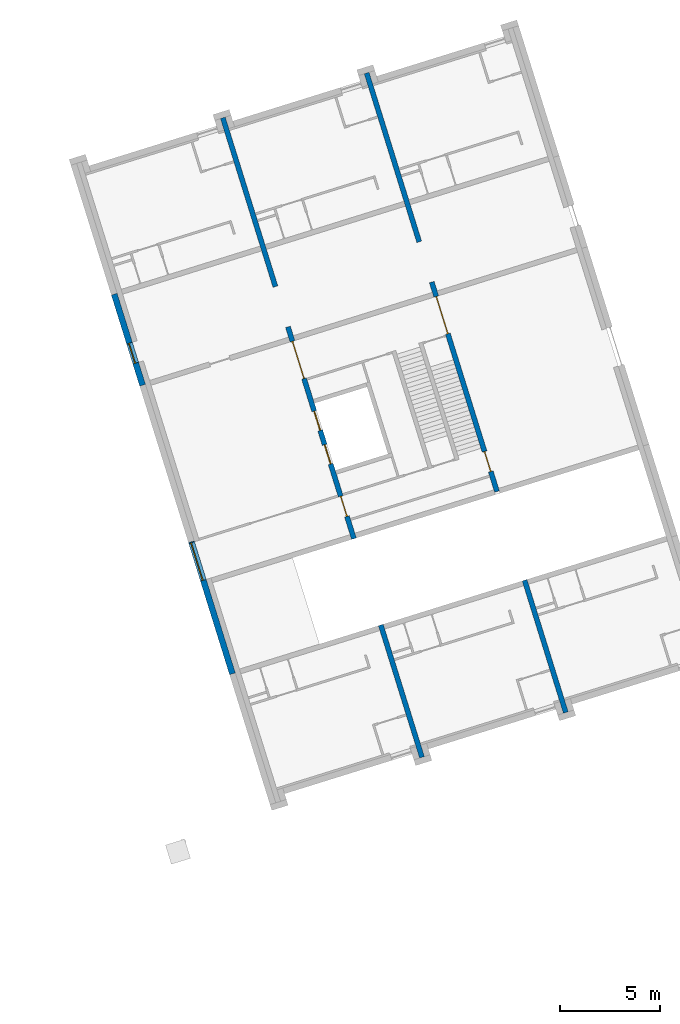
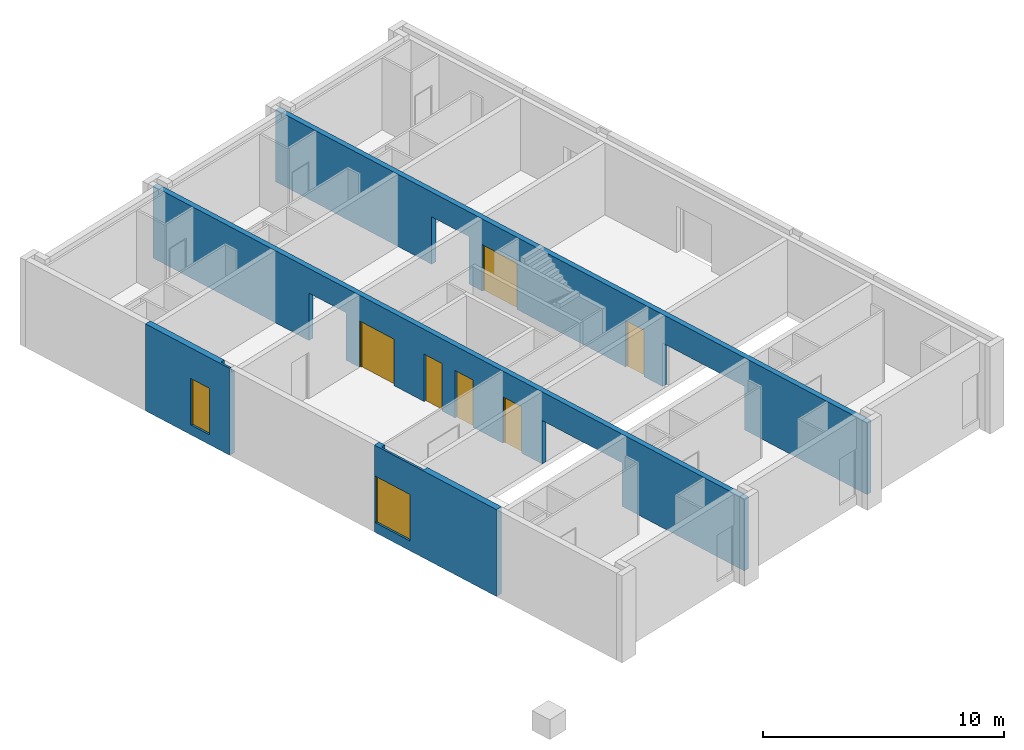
# One storey, part 7 of 10: 8 doors, 4 walls, 12 openings.
"""IFC4 building model written with IfcOpenShell, lengths in metres."""

from ifc_helpers import new_model, entity, si_unit, converted_unit, direction, frame, origin, place, context, subcontext, project, spatial, indexed_curve, outline, extrude, polygons, source, transform, mapped, material, constituent, constituent_set, type_object, type_shapes, element, fill, save


model = new_model("IFC4")

# Units and contexts
model_context = context("Model", 3, precision=1e-05, world=origin(), true_north=direction((6.12323399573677e-17, 1.0)))
body_context = subcontext(model_context, "Body", "Model", "MODEL_VIEW")
ifc_project = project(units=[si_unit("LENGTHUNIT", "METRE"), si_unit("AREAUNIT", "SQUARE_METRE"), si_unit("VOLUMEUNIT", "CUBIC_METRE"), converted_unit("PLANEANGLEUNIT", "DEGREE", entity("IfcPlaneAngleMeasure", 0.0174532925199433), si_unit("PLANEANGLEUNIT", "RADIAN"), dimensions=[0, 0, 0, 0, 0, 0, 0])], contexts=[model_context])

# Site, building, storey
site_placement = place(None, frame((13.1347999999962, 11.9886000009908, 0.0), z_axis=(0.0, 0.0, 1.0), x_axis=(0.954770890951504, 0.297342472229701, 0.0)))
site = spatial("IfcSite", under=ifc_project, at=site_placement, Name="Schiehaven", CompositionType="ELEMENT")
building_placement = place(site_placement, origin())
building = spatial("IfcBuilding", under=site, at=building_placement, Name="VORM huis", CompositionType="ELEMENT")
storey_placement = place(building_placement, origin())
storey = spatial("IfcBuildingStorey", under=building, at=storey_placement, Name="00 begane grond", CompositionType="ELEMENT", Elevation=0.0)

# Wall, openings, doors
ifc_material_1 = material(Name="beton_gewapend_ihw", Category="Miscellaneous")
wall_type_1 = type_object("IfcWallType", Name="Basic Wall:28_WA_skelet_wand 250mm_gen", PredefinedType="STANDARD")
wall_1_placement = place(storey_placement, frame((20.0, 33.725, 0.0), z_axis=(0.0, 0.0, 1.0), x_axis=(0.0, -1.0, 0.0)))
wall_1 = element("IfcWall", 1, at=wall_1_placement, inside=storey, type_object=wall_type_1, material=ifc_material_1, Name="Constructieve wand", ObjectType="Wand", PredefinedType="NOTDEFINED", context=body_context, shape_type="Tessellation", body=[
    polygons([(33.35, -0.124999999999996, 0.0), (33.35, -0.124999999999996, 3.65), (21.95, -0.124999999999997, 3.65), (21.7, -0.124999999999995, 3.65), (11.65, -0.124999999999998, 3.65), (11.4, -0.124999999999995, 3.65), (-4.33146851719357e-15, -0.124999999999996, 3.65), (-4.33146851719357e-15, -0.124999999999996, 0.0), (8.80000000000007, -0.124999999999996, 0.0), (8.80000000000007, -0.124999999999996, 2.4), (10.9000000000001, -0.124999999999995, 2.4), (10.9000000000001, -0.124999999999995, 0.0), (11.4, -0.124999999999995, 0.0), (11.65, -0.124999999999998, 0.0), (11.65, -0.124999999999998, 2.34999999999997), (13.6, -0.124999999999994, 2.34999999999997), (13.6, -0.124999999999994, 0.0), (19.735, -0.124999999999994, 0.0), (19.735, -0.124999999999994, 2.34999999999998), (20.785, -0.124999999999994, 2.34999999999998), (20.785, -0.124999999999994, 0.0), (21.7, -0.124999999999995, 0.0), (21.95, -0.124999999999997, 0.0), (21.95, -0.124999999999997, 2.2), (26.4499999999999, -0.124999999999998, 2.2), (26.4499999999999, -0.124999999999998, 0.0), (33.35, 0.125000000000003, 3.65), (33.35, 0.125000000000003, 0.0), (26.4499999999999, 0.125000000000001, 0.0), (26.4499999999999, 0.125000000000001, 2.2), (21.95, 0.125000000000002, 2.2), (21.95, 0.125000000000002, 0.0), (20.785, 0.125000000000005, 0.0), (20.785, 0.125000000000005, 2.34999999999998), (19.735, 0.125000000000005, 2.34999999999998), (19.735, 0.125000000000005, 0.0), (13.6, 0.125000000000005, 0.0), (13.6, 0.125000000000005, 2.34999999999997), (11.65, 0.125000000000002, 2.34999999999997), (11.65, 0.125000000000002, 0.0), (10.9000000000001, 0.125000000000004, 0.0), (10.9000000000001, 0.125000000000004, 2.4), (8.80000000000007, 0.125000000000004, 2.4), (8.80000000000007, 0.125000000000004, 0.0), (-4.33146851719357e-15, 0.125000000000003, 0.0), (-4.33146851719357e-15, 0.125000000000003, 3.65)], [[[1, 2, 3, 4, 5, 6, 7, 8, 9, 10, 11, 12, 13, 14, 15, 16, 17, 18, 19, 20, 21, 22, 23, 24, 25, 26]], [[27, 28, 29, 30, 31, 32, 33, 34, 35, 36, 37, 38, 39, 40, 41, 42, 43, 44, 45, 46]], [[8, 45, 44, 9]], [[2, 1, 28, 27]], [[7, 6, 5, 4, 3, 2, 27, 46]], [[8, 7, 46, 45]], [[10, 43, 42, 11]], [[43, 10, 9, 44]], [[11, 42, 41, 12]], [[21, 20, 34, 33]], [[19, 18, 36, 35]], [[20, 19, 35, 34]], [[39, 15, 14, 40]], [[16, 38, 37, 17]], [[15, 39, 38, 16]], [[25, 30, 29, 26]], [[30, 25, 24, 31]], [[31, 24, 23, 32]], [[12, 41, 40, 14, 13]], [[21, 33, 32, 23, 22]], [[28, 1, 26, 29]], [[36, 18, 17, 37]]], closed=True),
])
opening_1_placement = place(wall_1_placement, origin())
element("IfcOpeningElement", 2, at=opening_1_placement, cuts=wall_1, Name="Constructieve wand", PredefinedType="OPENING", context=body_context, shape_type="SweptSolid", body=[
    extrude(outline(indexed_curve([(-1.2, -1.05), (1.2, -1.05), (1.2, 1.05), (-1.2, 1.05), (-1.2, -1.05)], self_intersect=False)), frame((9.85000000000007, -0.125, 1.2), z_axis=(0.0, 1.0, 0.0), x_axis=(0.0, 0.0, -1.0)), (0.0, 0.0, 1.0), 0.250000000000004),
])
opening_2_placement = place(wall_1_placement, origin())
element("IfcOpeningElement", 3, at=opening_2_placement, cuts=wall_1, Name="Constructieve wand", PredefinedType="OPENING", context=body_context, shape_type="SweptSolid", body=[
    extrude(outline(indexed_curve([(-1.1, -2.31249999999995), (1.1, -2.31249999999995), (1.1, 2.31249999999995), (-1.1, 2.31249999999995), (-1.1, -2.31249999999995)], self_intersect=False)), frame((24.1374999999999, -0.125000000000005, 1.1), z_axis=(0.0, 1.0, 0.0), x_axis=(0.0, 0.0, -1.0)), (0.0, 0.0, 1.0), 0.250000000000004),
])
opening_3_placement = place(wall_1_placement, frame((19.735, -0.124999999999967, 0.0)))
opening_3 = element("IfcOpeningElement", 4, at=opening_3_placement, cuts=wall_1, Name="Vluchtdeur", PredefinedType="OPENING", context=body_context, shape_type="SweptSolid", body=[
    extrude(outline(indexed_curve([(2.34999999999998, 1.05), (0.0, 1.05), (0.0, 0.0), (2.34999999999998, 0.0), (2.34999999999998, 1.05)], self_intersect=False)), frame((0.0, 0.0, 0.0), z_axis=(0.0, 1.0, 0.0), x_axis=(0.0, 0.0, 1.0)), (0.0, 0.0, 1.0), 0.25),
])
opening_4_placement = place(wall_1_placement, frame((11.65, -0.124999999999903, 0.0)))
opening_4 = element("IfcOpeningElement", 5, at=opening_4_placement, cuts=wall_1, Name="Vluchtdeur", PredefinedType="OPENING", context=body_context, shape_type="SweptSolid", body=[
    extrude(outline(indexed_curve([(2.34999999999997, 2.16573425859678e-15), (2.34999999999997, 1.95), (0.0, 1.95), (0.0, 2.16573425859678e-15), (2.34999999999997, 2.16573425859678e-15)], self_intersect=False)), frame((0.0, 0.0, 0.0), z_axis=(0.0, 1.0, 0.0), x_axis=(0.0, 0.0, 1.0)), (0.0, 0.0, 1.0), 0.25),
])
ifc_material_2 = material(Name="PD_a_binnenwandopeningen", Category="Miscellaneous")
ifc_constituent_1 = constituent(ifc_material_2, Name="PD_a_binnenwandopeningen", Category="Miscellaneous")
ifc_material_3 = material(Name="metaal_aluminium_ntb", Category="Miscellaneous")
ifc_constituent_2 = constituent(ifc_material_3, Name="metaal_aluminium_ntb", Category="Miscellaneous")
ifc_constituent_set_1 = constituent_set(constituents=[ifc_constituent_1, ifc_constituent_2])
door_type_1 = type_object("IfcDoorType", Name="32_DO_binnendeur enkel:binnendeur zelfsluitend 30min", OperationType="NOTDEFINED", PredefinedType="DOOR")
shared_shape_1 = source(origin(), body_context, "Body", "SweptSolid", [
    extrude(outline(indexed_curve([(-1.16249999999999, -0.525000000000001), (1.18749999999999, -0.525), (1.18749999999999, 0.525000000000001), (-1.16249999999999, 0.525000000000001), (-1.16249999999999, 0.475), (1.13749999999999, 0.475), (1.13749999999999, -0.475), (-1.16249999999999, -0.475), (-1.16249999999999, -0.525000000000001)], self_intersect=False)), frame((0.525000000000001, 0.0749999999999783, 1.16249999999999), z_axis=(0.0, 1.0, 0.0), x_axis=(0.0, 0.0, 1.0)), (0.0, 0.0, 1.0), 0.1),
    extrude(outline(indexed_curve([(-0.025, -0.475), (0.025, -0.475), (0.025, 0.475), (-0.025, 0.475), (-0.025, -0.475)], self_intersect=False)), frame((0.525000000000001, 0.12499999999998, 0.0), z_axis=(0.0, 0.0, 1.0), x_axis=(0.0, 1.0, 0.0)), (0.0, 0.0, 1.0), 2.29999999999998),
])
door_1_placement = place(opening_3_placement, origin())
door_1 = element("IfcDoor", 6, at=door_1_placement, inside=storey, type_object=door_type_1, material=ifc_constituent_set_1, Name="Vluchtdeur", ObjectType="Deur", OperationType="NOTDEFINED", OverallHeight=2.34999999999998, OverallWidth=1.05, PredefinedType="DOOR", context=body_context, shape_type="MappedRepresentation", body=[
    mapped(shared_shape_1, transform((0.0, 0.0, 0.0), scale=1.0)),
])
fill(opening_3, door_1)
ifc_constituent_3 = constituent(ifc_material_2, Name="PD_a_binnenwandopeningen", Category="Miscellaneous")
ifc_constituent_4 = constituent(ifc_material_3, Name="metaal_aluminium_ntb", Category="Miscellaneous")
ifc_constituent_set_2 = constituent_set(constituents=[ifc_constituent_3, ifc_constituent_4])
door_type_2 = type_object("IfcDoorType", Name="32_DO_binnendeur dubbel:binnendeur zelfsluitend 30min", OperationType="NOTDEFINED", PredefinedType="DOOR")
shared_shape_2 = source(origin(), body_context, "Body", "SweptSolid", [
    extrude(outline(indexed_curve([(0.925, -1.16249999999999), (0.975, -1.16249999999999), (0.975, 1.18749999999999), (-0.975, 1.18749999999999), (-0.975, -1.16249999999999), (-0.925, -1.16249999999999), (-0.925, 1.13749999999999), (0.925, 1.13749999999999), (0.925, -1.16249999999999)], self_intersect=False)), frame((0.975000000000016, 0.175000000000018, 1.16249999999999), z_axis=(0.0, -1.0, 0.0), x_axis=(1.0, 0.0, 0.0)), (0.0, 0.0, 1.0), 0.1),
    extrude(outline(indexed_curve([(-0.462499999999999, -0.025), (0.462499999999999, -0.025), (0.462499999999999, 0.025), (-0.462499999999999, 0.025), (-0.462499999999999, -0.025)], self_intersect=False)), frame((0.512500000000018, 0.124999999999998, 0.0)), (0.0, 0.0, 1.0), 2.29999999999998),
    extrude(outline(indexed_curve([(-0.4625, -0.025), (0.4625, -0.025), (0.4625, 0.025), (-0.4625, 0.025), (-0.4625, -0.025)], self_intersect=False)), frame((1.43750000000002, 0.125000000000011, 0.0)), (0.0, 0.0, 1.0), 2.29999999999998),
])
type_shapes(door_type_2, [shared_shape_2])
door_2_placement = place(opening_4_placement, origin())
door_2 = element("IfcDoor", 7, at=door_2_placement, inside=storey, type_object=door_type_2, material=ifc_constituent_set_2, Name="Vluchtdeur", ObjectType="Deur", OperationType="NOTDEFINED", OverallHeight=2.34999999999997, OverallWidth=1.95, PredefinedType="DOOR", context=body_context, shape_type="MappedRepresentation", body=[
    mapped(shared_shape_2, transform((0.0, 0.0, 0.0), scale=1.0)),
])
fill(opening_4, door_2)

wall_2_placement = place(storey_placement, frame((12.5, 0.375000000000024, 0.0), z_axis=(0.0, 0.0, 1.0), x_axis=(0.0, 1.0, 0.0)))
wall_2 = element("IfcWall", 8, at=wall_2_placement, inside=storey, type_object=wall_type_1, material=ifc_material_1, Name="Constructieve wand", ObjectType="Wand", PredefinedType="NOTDEFINED", context=body_context, shape_type="Tessellation", body=[
    polygons([(18.05, -0.125, 0.0), (19.75, -0.125, 0.0), (19.75, -0.125, 2.34999999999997), (21.7, -0.124999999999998, 2.34999999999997), (21.7, -0.124999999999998, 0.0), (21.95, -0.124999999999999, 0.0), (22.4499999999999, -0.124999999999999, 0.0), (22.4499999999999, -0.124999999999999, 2.4), (24.5499999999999, -0.124999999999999, 2.4), (24.5499999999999, -0.124999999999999, 0.0), (33.35, -0.125, 0.0), (33.35, -0.125, 3.65), (21.95, -0.124999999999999, 3.65), (21.7, -0.124999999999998, 3.65), (11.65, -0.124999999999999, 3.65), (11.4, -0.124999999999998, 3.65), (1.15054632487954e-15, -0.125, 3.65), (1.89501747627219e-15, -0.125, 0.0), (6.90000000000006, -0.125, 0.0), (6.90000000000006, -0.125, 2.2), (11.4, -0.124999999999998, 2.2), (11.4, -0.124999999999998, 0.0), (11.65, -0.124999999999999, 0.0), (12.565, -0.124999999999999, 0.0), (12.565, -0.124999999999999, 2.34999999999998), (13.615, -0.125, 2.34999999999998), (13.615, -0.125, 0.0), (15.3, -0.125, 0.0), (15.3, -0.125, 2.39999999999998), (16.3, -0.124999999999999, 2.39999999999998), (16.3, -0.124999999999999, -2.03576600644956e-32), (17.05, -0.124999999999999, 0.0), (17.05, -0.124999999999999, 2.39999999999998), (18.05, -0.125, 2.39999999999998), (19.75, 0.124999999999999, 2.34999999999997), (19.75, 0.124999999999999, 0.0), (18.05, 0.124999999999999, -2.03576600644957e-32), (18.05, 0.124999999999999, 2.39999999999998), (17.05, 0.125, 2.39999999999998), (17.05, 0.125, 0.0), (16.3, 0.125000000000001, -4.07153201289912e-32), (16.3, 0.125000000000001, 2.39999999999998), (15.3, 0.125, 2.39999999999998), (15.3, 0.125, -2.03576600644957e-32), (13.615, 0.125, 0.0), (13.615, 0.125, 2.34999999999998), (12.565, 0.125000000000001, 2.34999999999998), (12.565, 0.125000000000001, 0.0), (11.4, 0.125000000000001, 0.0), (11.4, 0.125000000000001, 2.2), (6.90000000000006, 0.124999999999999, 2.2), (6.90000000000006, 0.124999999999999, 0.0), (1.69197988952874e-15, 0.125, 0.0), (9.47508738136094e-16, 0.125, 3.65), (33.35, 0.125, 3.65), (33.35, 0.125, 0.0), (24.5499999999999, 0.125000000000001, 0.0), (24.5499999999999, 0.125000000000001, 2.4), (22.4499999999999, 0.125000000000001, 2.4), (22.4499999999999, 0.124999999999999, 0.0), (21.7, 0.125000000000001, 0.0), (21.7, 0.125000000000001, 2.34999999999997)], [[[1, 2, 3, 4, 5, 6, 7, 8, 9, 10, 11, 12, 13, 14, 15, 16, 17, 18, 19, 20, 21, 22, 23, 24, 25, 26, 27, 28, 29, 30, 31, 32, 33, 34]], [[35, 36, 37, 38, 39, 40, 41, 42, 43, 44, 45, 46, 47, 48, 49, 50, 51, 52, 53, 54, 55, 56, 57, 58, 59, 60, 61, 62]], [[18, 53, 52, 19]], [[12, 11, 56, 55]], [[17, 16, 15, 14, 13, 12, 55, 54]], [[18, 17, 54, 53]], [[34, 38, 37, 1]], [[39, 33, 32, 40]], [[38, 34, 33, 39]], [[30, 42, 41, 31]], [[43, 29, 28, 44]], [[42, 30, 29, 43]], [[5, 4, 62, 61]], [[3, 2, 36, 35]], [[4, 3, 35, 62]], [[48, 47, 25, 24]], [[46, 45, 27, 26]], [[47, 46, 26, 25]], [[59, 8, 7, 60]], [[9, 58, 57, 10]], [[8, 59, 58, 9]], [[51, 20, 19, 52]], [[21, 50, 49, 22]], [[20, 51, 50, 21]], [[24, 23, 22, 49, 48]], [[28, 27, 45, 44]], [[56, 11, 10, 57]], [[40, 32, 31, 41]], [[37, 36, 2, 1]], [[61, 60, 7, 6, 5]]], closed=True),
])
opening_5_placement = place(wall_2_placement, origin())
element("IfcOpeningElement", 9, at=opening_5_placement, cuts=wall_2, Name="Constructieve wand", PredefinedType="OPENING", context=body_context, shape_type="SweptSolid", body=[
    extrude(outline(indexed_curve([(-1.2, -1.05), (1.2, -1.05), (1.2, 1.05), (-1.2, 1.05), (-1.2, -1.05)], self_intersect=False)), frame((23.4999999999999, -0.124999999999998, 1.2), z_axis=(0.0, 1.0, 0.0), x_axis=(0.0, 0.0, -1.0)), (0.0, 0.0, 1.0), 0.249999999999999),
])
opening_6_placement = place(wall_2_placement, origin())
element("IfcOpeningElement", 10, at=opening_6_placement, cuts=wall_2, Name="Constructieve wand", PredefinedType="OPENING", context=body_context, shape_type="SweptSolid", body=[
    extrude(outline(indexed_curve([(-1.1, -2.24999999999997), (1.1, -2.24999999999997), (1.1, 2.24999999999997), (-1.1, 2.24999999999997), (-1.1, -2.24999999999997)], self_intersect=False)), frame((9.15000000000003, -0.124999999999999, 1.1), z_axis=(0.0, 1.0, 0.0), x_axis=(0.0, 0.0, -1.0)), (0.0, 0.0, 1.0), 0.249999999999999),
])
opening_7_placement = place(wall_2_placement, frame((-0.375000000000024, 12.5, 0.0), z_axis=(0.0, 0.0, 1.0), x_axis=(0.0, -1.0, 0.0)))
opening_7 = element("IfcOpeningElement", 11, at=opening_7_placement, cuts=wall_2, Name="Brandweerlift", PredefinedType="OPENING", context=body_context, shape_type="SweptSolid", body=[
    extrude(outline(indexed_curve([(-1.19999999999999, -0.500000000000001), (1.19999999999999, -0.500000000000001), (1.19999999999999, 0.499999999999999), (-1.19999999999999, 0.499999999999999), (-1.19999999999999, -0.500000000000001)], self_intersect=False)), frame((12.962638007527, 17.925, 1.19999999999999), z_axis=(-1.0, 0.0, 0.0), x_axis=(0.0, 0.0, -1.0)), (0.0, 0.0, 1.0), 0.756310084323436),
])
opening_8_placement = place(wall_2_placement, frame((-0.375000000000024, 12.5, 0.0), z_axis=(0.0, 0.0, 1.0), x_axis=(0.0, -1.0, 0.0)))
opening_8 = element("IfcOpeningElement", 12, at=opening_8_placement, cuts=wall_2, Name="Brandweerlift", PredefinedType="OPENING", context=body_context, shape_type="SweptSolid", body=[
    extrude(outline(indexed_curve([(-1.19999999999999, -0.499999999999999), (1.19999999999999, -0.499999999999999), (1.19999999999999, 0.500000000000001), (-1.19999999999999, 0.500000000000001), (-1.19999999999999, -0.499999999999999)], self_intersect=False)), frame((12.962638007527, 16.175, 1.19999999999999), z_axis=(-1.0, 0.0, 0.0), x_axis=(0.0, 0.0, -1.0)), (0.0, 0.0, 1.0), 0.756310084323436),
])
opening_9_placement = place(wall_2_placement, frame((12.565, -0.125000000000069, 0.0)))
opening_9 = element("IfcOpeningElement", 13, at=opening_9_placement, cuts=wall_2, Name="Vluchtdeur", PredefinedType="OPENING", context=body_context, shape_type="SweptSolid", body=[
    extrude(outline(indexed_curve([(2.34999999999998, 2.16573425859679e-15), (2.34999999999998, 1.05), (0.0, 1.05), (0.0, 2.16573425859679e-15), (2.34999999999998, 2.16573425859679e-15)], self_intersect=False)), frame((0.0, 0.0, 0.0), z_axis=(0.0, 1.0, 0.0), x_axis=(0.0, 0.0, 1.0)), (0.0, 0.0, 1.0), 0.25),
])
opening_10_placement = place(wall_2_placement, frame((19.75, -0.125000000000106, 0.0)))
opening_10 = element("IfcOpeningElement", 14, at=opening_10_placement, cuts=wall_2, Name="Vluchtdeur", PredefinedType="OPENING", context=body_context, shape_type="SweptSolid", body=[
    extrude(outline(indexed_curve([(2.34999999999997, 1.95), (0.0, 1.95), (0.0, 0.0), (2.34999999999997, 0.0), (2.34999999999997, 1.95)], self_intersect=False)), frame((0.0, 0.0, 0.0), z_axis=(0.0, 1.0, 0.0), x_axis=(0.0, 0.0, 1.0)), (0.0, 0.0, 1.0), 0.25),
])
door_type_3 = type_object("IfcDoorType", Name="66_WI_liftdeur:brandweerlift - tweezijdig toegankelijk", OperationType="NOTDEFINED", PredefinedType="DOOR", material=ifc_material_3)
shared_shape_3 = source(origin(), body_context, "Body", "SweptSolid", [
    extrude(outline(indexed_curve([(-0.25, -0.0250000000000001), (0.25, -0.0249999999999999), (0.25, 0.0250000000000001), (-0.25, 0.0249999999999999), (-0.25, -0.0250000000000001)], self_intersect=False)), frame((0.750000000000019, -0.21263800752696, 0.0)), (0.0, 0.0, 1.0), 2.39999999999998),
    extrude(outline(indexed_curve([(-0.25, -0.0250000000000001), (0.25, -0.0249999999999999), (0.25, 0.0250000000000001), (-0.25, 0.0249999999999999), (-0.25, -0.0250000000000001)], self_intersect=False)), frame((0.250000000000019, -0.212638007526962, 0.0)), (0.0, 0.0, 1.0), 2.39999999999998),
])
door_3_placement = place(opening_8_placement, frame((12.2873619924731, 15.675, 0.0), z_axis=(0.0, 0.0, 1.0), x_axis=(0.0, 1.0, 0.0)))
door_3 = element("IfcDoor", 15, at=door_3_placement, inside=storey, type_object=door_type_3, material=ifc_material_3, Name="Brandweerlift", ObjectType="Transport", OperationType="NOTDEFINED", OverallHeight=2.39999999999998, OverallWidth=1.0, PredefinedType="DOOR", context=body_context, shape_type="MappedRepresentation", body=[
    mapped(shared_shape_3, transform((0.0, 0.0, 0.0), scale=1.0)),
])
fill(opening_8, door_3)
door_4_placement = place(opening_7_placement, frame((12.2873619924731, 17.425, 0.0), z_axis=(0.0, 0.0, 1.0), x_axis=(0.0, 1.0, 0.0)))
door_4 = element("IfcDoor", 16, at=door_4_placement, inside=storey, type_object=door_type_3, material=ifc_material_3, Name="Brandweerlift", ObjectType="Transport", OperationType="NOTDEFINED", OverallHeight=2.39999999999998, OverallWidth=1.0, PredefinedType="DOOR", context=body_context, shape_type="MappedRepresentation", body=[
    mapped(shared_shape_3, transform((0.0, 0.0, 0.0), scale=1.0)),
])
fill(opening_7, door_4)
ifc_constituent_5 = constituent(ifc_material_2, Name="PD_a_binnenwandopeningen", Category="Miscellaneous")
ifc_constituent_6 = constituent(ifc_material_3, Name="metaal_aluminium_ntb", Category="Miscellaneous")
ifc_constituent_set_3 = constituent_set(constituents=[ifc_constituent_5, ifc_constituent_6])
shared_shape_4 = source(origin(), body_context, "Body", "SweptSolid", [
    extrude(outline(indexed_curve([(0.475, -1.16249999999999), (0.525000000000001, -1.16249999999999), (0.525000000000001, 1.18749999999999), (-0.525000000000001, 1.18749999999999), (-0.525000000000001, -1.16249999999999), (-0.475, -1.16249999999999), (-0.475, 1.13749999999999), (0.475, 1.13749999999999), (0.475, -1.16249999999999)], self_intersect=False)), frame((0.525000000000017, 0.174999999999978, 1.16249999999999), z_axis=(0.0, -1.0, 0.0), x_axis=(1.0, 0.0, 0.0)), (0.0, 0.0, 1.0), 0.1),
    extrude(outline(indexed_curve([(-0.475, -0.025), (0.475, -0.025), (0.475, 0.025), (-0.475, 0.025), (-0.475, -0.025)], self_intersect=False)), frame((0.525000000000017, 0.12499999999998, 0.0)), (0.0, 0.0, 1.0), 2.29999999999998),
])
door_5_placement = place(opening_9_placement, origin())
door_5 = element("IfcDoor", 17, at=door_5_placement, inside=storey, type_object=door_type_1, material=ifc_constituent_set_3, Name="Vluchtdeur", ObjectType="Deur", OperationType="NOTDEFINED", OverallHeight=2.34999999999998, OverallWidth=1.05, PredefinedType="DOOR", context=body_context, shape_type="MappedRepresentation", body=[
    mapped(shared_shape_4, transform((0.0, 0.0, 0.0), scale=1.0)),
])
fill(opening_9, door_5)
ifc_constituent_7 = constituent(ifc_material_2, Name="PD_a_binnenwandopeningen", Category="Miscellaneous")
ifc_constituent_8 = constituent(ifc_material_3, Name="metaal_aluminium_ntb", Category="Miscellaneous")
ifc_constituent_set_4 = constituent_set(constituents=[ifc_constituent_7, ifc_constituent_8])
shared_shape_5 = source(origin(), body_context, "Body", "SweptSolid", [
    extrude(outline(indexed_curve([(-1.16249999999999, -0.975), (1.18749999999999, -0.975), (1.18749999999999, 0.975), (-1.16249999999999, 0.975), (-1.16249999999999, 0.925), (1.13749999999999, 0.925), (1.13749999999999, -0.925), (-1.16249999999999, -0.925), (-1.16249999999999, -0.975)], self_intersect=False)), frame((0.975, 0.075000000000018, 1.16249999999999), z_axis=(0.0, 1.0, 0.0), x_axis=(0.0, 0.0, 1.0)), (0.0, 0.0, 1.0), 0.1),
    extrude(outline(indexed_curve([(-0.025, -0.462499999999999), (0.025, -0.462499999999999), (0.025, 0.462499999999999), (-0.025, 0.462499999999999), (-0.025, -0.462499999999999)], self_intersect=False)), frame((1.4375, 0.124999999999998, 0.0), z_axis=(0.0, 0.0, 1.0), x_axis=(0.0, 1.0, 0.0)), (0.0, 0.0, 1.0), 2.29999999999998),
    extrude(outline(indexed_curve([(-0.0249999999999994, -0.4625), (0.0250000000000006, -0.4625), (0.0249999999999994, 0.4625), (-0.0250000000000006, 0.4625), (-0.0249999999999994, -0.4625)], self_intersect=False)), frame((0.5125, 0.125000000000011, 0.0), z_axis=(0.0, 0.0, 1.0), x_axis=(0.0, 1.0, 0.0)), (0.0, 0.0, 1.0), 2.29999999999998),
])
door_6_placement = place(opening_10_placement, origin())
door_6 = element("IfcDoor", 18, at=door_6_placement, inside=storey, type_object=door_type_2, material=ifc_constituent_set_4, Name="Vluchtdeur", ObjectType="Deur", OperationType="NOTDEFINED", OverallHeight=2.34999999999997, OverallWidth=1.95, PredefinedType="DOOR", context=body_context, shape_type="MappedRepresentation", body=[
    mapped(shared_shape_5, transform((0.0, 0.0, 0.0), scale=1.0)),
])
fill(opening_10, door_6)

# Wall, opening, door
ifc_material_4 = material(Name="ntb_ntb_ntb", Category="Miscellaneous")
wall_type_2 = type_object("IfcWallType", Name="Basic Wall: 300mm_gen", PredefinedType="STANDARD")
wall_3_placement = place(storey_placement, frame((4.72500000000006, 7.15000000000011, -0.5), z_axis=(0.0, 0.0, 1.0), x_axis=(0.0, 1.0, 0.0)))
wall_3 = element("IfcWall", 19, at=wall_3_placement, inside=storey, type_object=wall_type_2, material=ifc_material_4, Name="Gevelwand", ObjectType="Wand", PredefinedType="NOTDEFINED", context=body_context, shape_type="Tessellation", body=[
    polygons([(0.0, -0.15, 0.0), (6.89, -0.149999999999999, 0.0), (6.89, -0.149999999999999, 4.4), (6.57499999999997, -0.149999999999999, 4.4), (6.57499999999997, -0.149999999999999, 4.15), (4.17499999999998, -0.149999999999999, 4.15), (4.17499999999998, -0.149999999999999, 4.4), (0.0, -0.15, 4.4), (4.87499999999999, -0.149999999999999, 2.84999999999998), (6.83999999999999, -0.149999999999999, 2.84999999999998), (6.83999999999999, -0.149999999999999, 0.5), (4.87499999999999, -0.149999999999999, 0.5), (6.89, 0.150000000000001, 0.0), (8.88178419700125e-16, 0.150000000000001, 0.0), (8.88178419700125e-16, 0.150000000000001, 4.4), (6.89, 0.150000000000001, 4.4), (6.83999999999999, 0.150000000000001, 2.84999999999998), (4.87499999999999, 0.150000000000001, 2.84999999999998), (4.87499999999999, 0.150000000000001, 0.5), (6.83999999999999, 0.150000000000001, 0.5), (4.17499999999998, 0.0499999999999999, 4.4), (6.57499999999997, 0.0500000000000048, 4.4), (6.57499999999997, 0.0500000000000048, 4.15), (4.17499999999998, 0.0499999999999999, 4.15)], [[[1, 2, 3, 4, 5, 6, 7, 8], [9, 10, 11, 12]], [[13, 14, 15, 16], [17, 18, 19, 20]], [[2, 1, 14, 13]], [[3, 2, 13, 16]], [[16, 15, 8, 7, 21, 22, 4, 3]], [[1, 8, 15, 14]], [[10, 9, 18, 17]], [[9, 12, 19, 18]], [[12, 11, 20, 19]], [[11, 10, 17, 20]], [[23, 24, 6, 5]], [[24, 21, 7, 6]], [[24, 23, 22, 21]], [[22, 23, 5, 4]]], closed=True),
])
opening_11_placement = place(wall_3_placement, frame((4.87499999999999, -0.15000000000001, 0.5)))
opening_11 = element("IfcOpeningElement", 20, at=opening_11_placement, cuts=wall_3, Name="Vluchtdeur", PredefinedType="OPENING", context=body_context, shape_type="SweptSolid", body=[
    extrude(outline(indexed_curve([(2.34999999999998, 1.965), (0.0, 1.965), (0.0, -6.56822617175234e-31), (2.34999999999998, -6.56822617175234e-31), (2.34999999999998, 1.965)], self_intersect=False)), frame((0.0, 0.0, 0.0), z_axis=(0.0, 1.0, 0.0), x_axis=(0.0, 0.0, 1.0)), (0.0, 0.0, 1.0), 0.3),
])
ifc_material_5 = material(Name="PD_a_buitenwandopeningen", Category="Miscellaneous")
ifc_constituent_9 = constituent(ifc_material_5, Name="PD_a_buitenwandopeningen", Category="Miscellaneous")
ifc_constituent_10 = constituent(ifc_material_3, Name="metaal_aluminium_ntb", Category="Miscellaneous")
ifc_constituent_set_5 = constituent_set(constituents=[ifc_constituent_9, ifc_constituent_10])
door_type_4 = type_object("IfcDoorType", Name="31_DO_buitendeur dubbel:buitendeur zelfsluitend 30min", OperationType="NOTDEFINED", PredefinedType="DOOR")
shared_shape_6 = source(origin(), body_context, "Body", "SweptSolid", [
    extrude(outline(indexed_curve([(-1.16249999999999, -0.982500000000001), (1.18749999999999, -0.982500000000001), (1.18749999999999, 0.982500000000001), (-1.16249999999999, 0.982500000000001), (-1.16249999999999, 0.932499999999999), (1.13749999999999, 0.9325), (1.13749999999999, -0.932499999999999), (-1.16249999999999, -0.932499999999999), (-1.16249999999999, -0.982500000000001)], self_intersect=False)), frame((0.982500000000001, 0.130000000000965, 1.16249999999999), z_axis=(0.0, 1.0, 0.0), x_axis=(0.0, 0.0, 1.0)), (0.0, 0.0, 1.0), 0.1),
    extrude(outline(indexed_curve([(-0.025, -0.466249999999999), (0.025, -0.466249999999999), (0.025, 0.466249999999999), (-0.025, 0.466249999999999), (-0.025, -0.466249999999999)], self_intersect=False)), frame((1.44875, 0.180000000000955, 0.0), z_axis=(0.0, 0.0, 1.0), x_axis=(0.0, 1.0, 0.0)), (0.0, 0.0, 1.0), 2.29999999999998),
    extrude(outline(indexed_curve([(-0.0249999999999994, -0.46625), (0.0250000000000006, -0.46625), (0.0249999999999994, 0.46625), (-0.0250000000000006, 0.466249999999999), (-0.0249999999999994, -0.46625)], self_intersect=False)), frame((0.516250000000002, 0.180000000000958, 0.0), z_axis=(0.0, 0.0, 1.0), x_axis=(0.0, 1.0, 0.0)), (0.0, 0.0, 1.0), 2.29999999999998),
])
type_shapes(door_type_4, [shared_shape_6])
door_7_placement = place(opening_11_placement, origin())
door_7 = element("IfcDoor", 21, at=door_7_placement, inside=storey, type_object=door_type_4, material=ifc_constituent_set_5, Name="Vluchtdeur", ObjectType="Deur", OperationType="NOTDEFINED", OverallHeight=2.34999999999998, OverallWidth=1.965, PredefinedType="DOOR", context=body_context, shape_type="MappedRepresentation", body=[
    mapped(shared_shape_6, transform((0.0, 0.0, 0.0), scale=1.0)),
])
fill(opening_11, door_7)

wall_4_placement = place(storey_placement, frame((4.72500000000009, 22.2000000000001, -0.5), z_axis=(0.0, 0.0, 1.0), x_axis=(0.0, 1.0, 0.0)))
wall_4 = element("IfcWall", 22, at=wall_4_placement, inside=storey, type_object=wall_type_2, material=ifc_material_4, Name="Gevelwand", ObjectType="Wand", PredefinedType="NOTDEFINED", context=body_context, shape_type="Tessellation", body=[
    polygons([(3.5527136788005e-15, -0.149999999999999, 0.0), (4.74999999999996, -0.149999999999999, 0.0), (4.74999999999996, -0.149999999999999, 4.4), (0.574999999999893, -0.15, 4.4), (0.574999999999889, -0.15, 4.15), (3.5527136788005e-15, -0.149999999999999, 4.15), (1.14999999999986, -0.15, 0.5), (1.14999999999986, -0.15, 2.84999999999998), (2.19999999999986, -0.149999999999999, 2.84999999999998), (2.19999999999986, -0.149999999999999, 0.5), (4.74999999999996, 0.150000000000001, 0.0), (3.5527136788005e-15, 0.150000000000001, 0.0), (3.5527136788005e-15, 0.150000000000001, 4.4), (4.74999999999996, 0.150000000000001, 4.4), (1.14999999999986, 0.15, 2.84999999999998), (1.14999999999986, 0.15, 0.5), (2.19999999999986, 0.150000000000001, 0.5), (2.19999999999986, 0.150000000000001, 2.84999999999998), (3.5527136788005e-15, 0.0500000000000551, 4.4), (0.574999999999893, 0.0500000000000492, 4.4), (3.5527136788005e-15, 0.0500000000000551, 4.15), (0.574999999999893, 0.0500000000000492, 4.15)], [[[1, 2, 3, 4, 5, 6], [7, 8, 9, 10]], [[11, 12, 13, 14], [15, 16, 17, 18]], [[2, 1, 12, 11]], [[3, 2, 11, 14]], [[14, 13, 19, 20, 4, 3]], [[13, 12, 1, 6, 21, 19]], [[5, 22, 21, 6]], [[20, 22, 5, 4]], [[22, 20, 19, 21]], [[16, 15, 8, 7]], [[17, 16, 7, 10]], [[18, 17, 10, 9]], [[15, 18, 9, 8]]], closed=True),
])
opening_12_placement = place(wall_4_placement, frame((1.14999999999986, -0.150000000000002, 0.5)))
opening_12 = element("IfcOpeningElement", 23, at=opening_12_placement, cuts=wall_4, Name="Vluchtdeur", PredefinedType="OPENING", context=body_context, shape_type="SweptSolid", body=[
    extrude(outline(indexed_curve([(2.34999999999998, -3.47151676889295e-32), (2.34999999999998, 1.05), (0.0, 1.05), (0.0, -3.47151676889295e-32), (2.34999999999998, -3.47151676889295e-32)], self_intersect=False)), frame((0.0, 0.0, 0.0), z_axis=(0.0, 1.0, 0.0), x_axis=(0.0, 0.0, 1.0)), (0.0, 0.0, 1.0), 0.3),
])
ifc_constituent_11 = constituent(ifc_material_5, Name="PD_a_buitenwandopeningen", Category="Miscellaneous")
ifc_constituent_12 = constituent(ifc_material_3, Name="metaal_aluminium_ntb", Category="Miscellaneous")
ifc_constituent_set_6 = constituent_set(constituents=[ifc_constituent_11, ifc_constituent_12])
door_type_5 = type_object("IfcDoorType", Name="31_DO_buitendeur enkel:buitendeur zelfsluitend 30min", OperationType="NOTDEFINED", PredefinedType="DOOR")
shared_shape_7 = source(origin(), body_context, "Body", "SweptSolid", [
    extrude(outline(indexed_curve([(0.475, -1.16249999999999), (0.525000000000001, -1.16249999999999), (0.525000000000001, 1.18749999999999), (-0.525000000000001, 1.18749999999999), (-0.525000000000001, -1.16249999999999), (-0.475, -1.16249999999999), (-0.475, 1.13749999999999), (0.475, 1.13749999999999), (0.475, -1.16249999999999)], self_intersect=False)), frame((0.525000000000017, 0.230000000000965, 1.16249999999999), z_axis=(0.0, -1.0, 0.0), x_axis=(1.0, 0.0, 0.0)), (0.0, 0.0, 1.0), 0.1),
    extrude(outline(indexed_curve([(-0.475, -0.025), (0.475, -0.025), (0.475, 0.025), (-0.475, 0.025), (-0.475, -0.025)], self_intersect=False)), frame((0.525000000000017, 0.180000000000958, 0.0)), (0.0, 0.0, 1.0), 2.29999999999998),
])
door_8_placement = place(opening_12_placement, origin())
door_8 = element("IfcDoor", 24, at=door_8_placement, inside=storey, type_object=door_type_5, material=ifc_constituent_set_6, Name="Vluchtdeur", ObjectType="Deur", OperationType="NOTDEFINED", OverallHeight=2.34999999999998, OverallWidth=1.05, PredefinedType="DOOR", context=body_context, shape_type="MappedRepresentation", body=[
    mapped(shared_shape_7, transform((0.0, 0.0, 0.0), scale=1.0)),
])
fill(opening_12, door_8)

save(model, "model.ifc")
